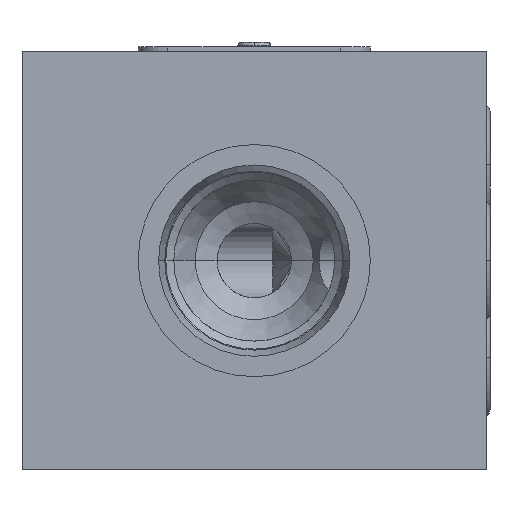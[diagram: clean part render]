
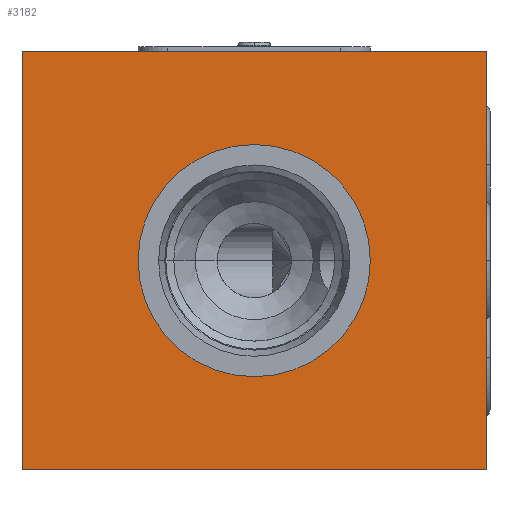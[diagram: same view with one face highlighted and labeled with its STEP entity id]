
A CAD part, left-side view. The second image highlights one B-rep face of the part: STEP entity #3182.
In plain terms, the highlighted planar face has unit normal (-1, 0, 0).
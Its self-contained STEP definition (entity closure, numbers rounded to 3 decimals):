
#55=DIRECTION('',(0.,0.,-1.));
#56=VECTOR('',#55,45.);
#57=CARTESIAN_POINT('',(0.,0.,0.));
#58=LINE('',#57,#56);
#62=DIRECTION('',(0.,1.,0.));
#63=VECTOR('',#62,50.);
#64=CARTESIAN_POINT('',(0.,0.,-45.));
#65=LINE('',#64,#63);
#69=DIRECTION('',(0.,0.,1.));
#70=VECTOR('',#69,45.);
#71=CARTESIAN_POINT('',(0.,50.,-45.));
#72=LINE('',#71,#70);
#76=DIRECTION('',(0.,-1.,0.));
#77=VECTOR('',#76,50.);
#78=CARTESIAN_POINT('',(0.,50.,0.));
#79=LINE('',#78,#77);
#83=CARTESIAN_POINT('',(0.,25.,-22.5));
#84=DIRECTION('',(1.,0.,0.));
#85=DIRECTION('',(0.,-1.,0.));
#86=AXIS2_PLACEMENT_3D('',#83,#84,#85);
#91=CARTESIAN_POINT('',(0.,25.,-22.5));
#92=DIRECTION('',(1.,0.,0.));
#93=DIRECTION('',(0.,1.,0.));
#94=AXIS2_PLACEMENT_3D('',#91,#92,#93);
#2868=CARTESIAN_POINT('',(0.,0.,0.));
#2869=CARTESIAN_POINT('',(0.,0.,-45.));
#2870=VERTEX_POINT('',#2868);
#2871=VERTEX_POINT('',#2869);
#2872=CARTESIAN_POINT('',(0.,50.,-45.));
#2873=VERTEX_POINT('',#2872);
#2874=CARTESIAN_POINT('',(0.,50.,0.));
#2875=VERTEX_POINT('',#2874);
#2986=CARTESIAN_POINT('',(0.,12.5,-22.5));
#2987=VERTEX_POINT('',#2986);
#2988=CARTESIAN_POINT('',(0.,37.5,-22.5));
#2989=VERTEX_POINT('',#2988);
#3161=CARTESIAN_POINT('',(0.,0.,0.));
#3162=DIRECTION('',(1.,0.,0.));
#3163=DIRECTION('',(0.,0.,-1.));
#3164=AXIS2_PLACEMENT_3D('',#3161,#3162,#3163);
#3165=PLANE('',#3164);
#3167=ORIENTED_EDGE('',*,*,#3166,.T.);
#3169=ORIENTED_EDGE('',*,*,#3168,.T.);
#3171=ORIENTED_EDGE('',*,*,#3170,.T.);
#3173=ORIENTED_EDGE('',*,*,#3172,.T.);
#3174=EDGE_LOOP('',(#3167,#3169,#3171,#3173));
#3175=FACE_OUTER_BOUND('',#3174,.F.);
#3177=ORIENTED_EDGE('',*,*,#3176,.F.);
#3179=ORIENTED_EDGE('',*,*,#3178,.F.);
#3180=EDGE_LOOP('',(#3177,#3179));
#3181=FACE_BOUND('',#3180,.F.);
#87=CIRCLE('',#86,12.5);
#95=CIRCLE('',#94,12.5);
#3166=EDGE_CURVE('',#2870,#2871,#58,.T.);
#3168=EDGE_CURVE('',#2871,#2873,#65,.T.);
#3170=EDGE_CURVE('',#2873,#2875,#72,.T.);
#3172=EDGE_CURVE('',#2875,#2870,#79,.T.);
#3176=EDGE_CURVE('',#2987,#2989,#87,.T.);
#3178=EDGE_CURVE('',#2989,#2987,#95,.T.);
#3182=ADVANCED_FACE('',(#3175,#3181),#3165,.F.);
